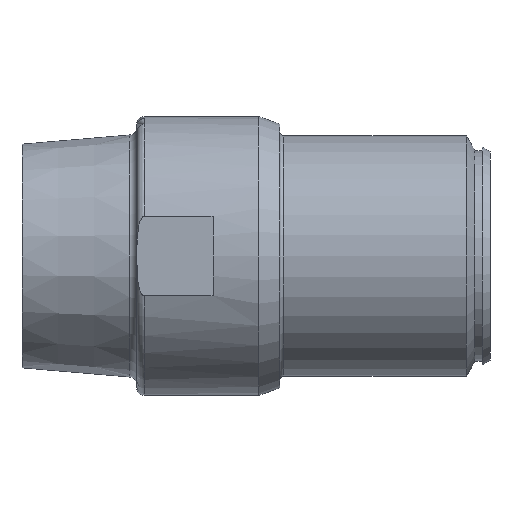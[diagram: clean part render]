
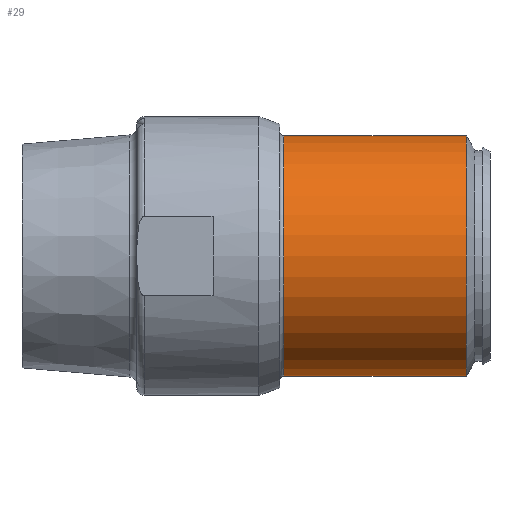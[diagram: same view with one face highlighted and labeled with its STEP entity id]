
A CAD part, front view. The second image highlights one B-rep face of the part: STEP entity #29.
In plain terms, the highlighted cylindrical face has radius 31.5 mm (diameter 63 mm), a partial arc.
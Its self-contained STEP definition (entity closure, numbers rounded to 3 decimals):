
#19 = EDGE_CURVE ( 'NONE', #1200, #1193, #126, .T. ) ;
#29 = ADVANCED_FACE ( 'NONE', ( #408 ), #411, .T. ) ;
#73 = EDGE_CURVE ( 'NONE', #1200, #1199, #575, .T. ) ;
#74 = EDGE_CURVE ( 'NONE', #1193, #1201, #898, .T. ) ;
#101 = EDGE_CURVE ( 'NONE', #1199, #1201, #758, .T. ) ;
#126 = CIRCLE ( 'NONE', #127, 31.5 ) ;
#127 = AXIS2_PLACEMENT_3D ( 'NONE', #372, #373, #374 ) ;
#267 = EDGE_LOOP ( 'NONE', ( #339, #340, #331, #338 ) ) ;
#331 = ORIENTED_EDGE ( 'NONE', *, *, #74, .T. ) ;
#338 = ORIENTED_EDGE ( 'NONE', *, *, #101, .F. ) ;
#339 = ORIENTED_EDGE ( 'NONE', *, *, #73, .F. ) ;
#340 = ORIENTED_EDGE ( 'NONE', *, *, #19, .T. ) ;
#372 = CARTESIAN_POINT ( 'NONE',  ( -54.005, 0., 0. ) ) ;
#373 = DIRECTION ( 'NONE',  ( 1., 0., 0. ) ) ;
#374 = DIRECTION ( 'NONE',  ( 0., 0., -1. ) ) ;
#397 = DIRECTION ( 'NONE',  ( 1., 0., 0. ) ) ;
#408 = FACE_OUTER_BOUND ( 'NONE', #267, .T. ) ;
#409 = CARTESIAN_POINT ( 'NONE',  ( 1.309, 0., 0. ) ) ;
#411 = CYLINDRICAL_SURFACE ( 'NONE', #1251, 31.5 ) ;
#412 = DIRECTION ( 'NONE',  ( 0., 0., -1. ) ) ;
#575 = LINE ( 'NONE', #576, #1028 ) ;
#576 = CARTESIAN_POINT ( 'NONE',  ( 1.309, 0., 31.5 ) ) ;
#583 = DIRECTION ( 'NONE',  ( 1., 0., 0. ) ) ;
#584 = DIRECTION ( 'NONE',  ( 1., 0., 0. ) ) ;
#702 = CARTESIAN_POINT ( 'NONE',  ( -6.194, 0., 0. ) ) ;
#703 = DIRECTION ( 'NONE',  ( 1., 0., 0. ) ) ;
#704 = DIRECTION ( 'NONE',  ( 0., 0., 1. ) ) ;
#758 = CIRCLE ( 'NONE', #759, 31.5 ) ;
#759 = AXIS2_PLACEMENT_3D ( 'NONE', #702, #703, #704 ) ;
#827 = CARTESIAN_POINT ( 'NONE',  ( -54.005, 0., -31.5 ) ) ;
#830 = CARTESIAN_POINT ( 'NONE',  ( -6.194, 0., 31.5 ) ) ;
#833 = CARTESIAN_POINT ( 'NONE',  ( -54.005, 0., 31.5 ) ) ;
#834 = CARTESIAN_POINT ( 'NONE',  ( -6.194, 0., -31.5 ) ) ;
#895 = CARTESIAN_POINT ( 'NONE',  ( 1.309, 0., -31.5 ) ) ;
#898 = LINE ( 'NONE', #895, #1030 ) ;
#1028 = VECTOR ( 'NONE', #583, 1000. ) ;
#1030 = VECTOR ( 'NONE', #584, 1000. ) ;
#1193 = VERTEX_POINT ( 'NONE', #827 ) ;
#1199 = VERTEX_POINT ( 'NONE', #830 ) ;
#1200 = VERTEX_POINT ( 'NONE', #833 ) ;
#1201 = VERTEX_POINT ( 'NONE', #834 ) ;
#1251 = AXIS2_PLACEMENT_3D ( 'NONE', #409, #397, #412 ) ;
